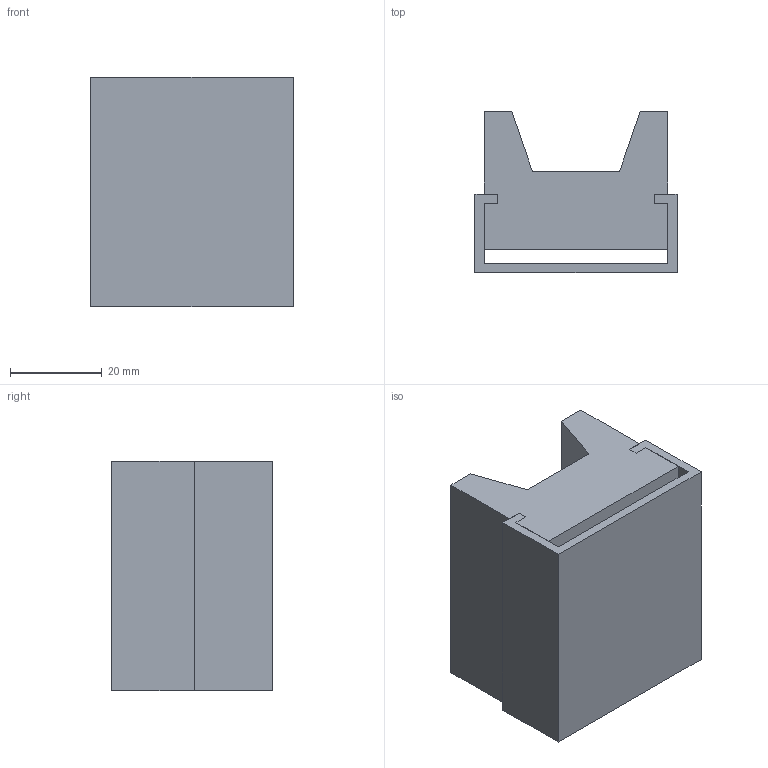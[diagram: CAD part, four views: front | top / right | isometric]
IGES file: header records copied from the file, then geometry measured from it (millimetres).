
Start section: SolidWorks IGES file using analytic representation for surfaces
Global section: file name: C:\Documents and Settings\ARGE\Desktop\yeni katalog tolgay düzenli\E kataloðu\ALPOLEN 1000 ÇELÝK PROFÝLLÝ V KAYIÞ KLAVUZLARI\207 VP0 012.IGS; native system: SolidWorks 2006 by SolidWorks Corporation; preprocessor: SolidWorks 2006 by SolidWorks Corporation; author: ARGE2; date: 060912.173319; units: millimetre
Bounding box: 44 x 35 x 50 mm (x, y, z)
Surface area: 18812.9 mm2 (no closed solid volume)
Topology: 0 solids, 0 shells, 32 faces, 168 edges, 168 vertices
Faces by surface type: bspline 32
